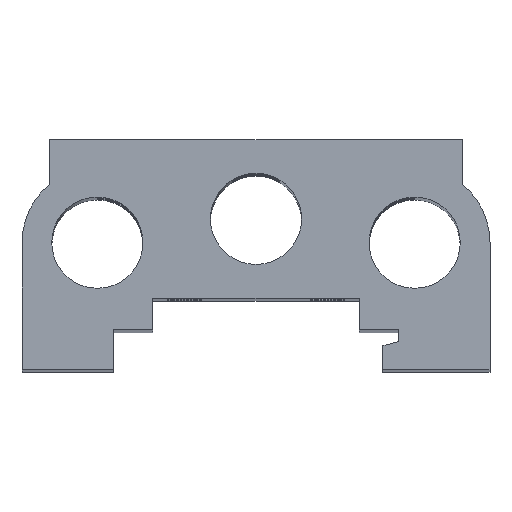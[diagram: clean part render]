
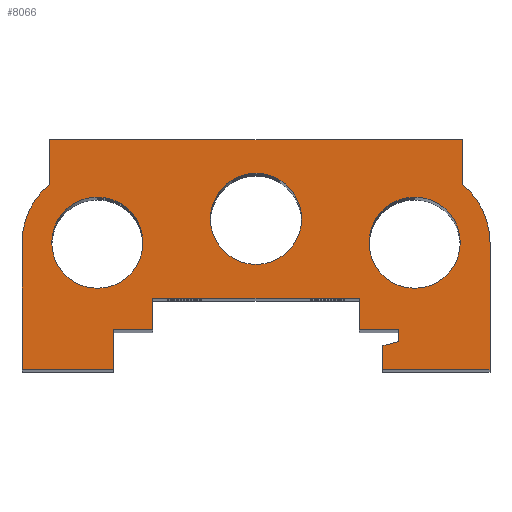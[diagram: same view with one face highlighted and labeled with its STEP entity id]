
A CAD part, top view. The second image highlights one B-rep face of the part: STEP entity #8066.
In plain terms, the highlighted planar face has unit normal (0, 0, 1).
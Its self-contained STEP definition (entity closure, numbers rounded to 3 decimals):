
#7066=CARTESIAN_POINT('',(25.75,16.0,206.0));
#7067=VERTEX_POINT('',#7066);
#7068=CARTESIAN_POINT('',(20.0,16.0,206.0));
#7069=DIRECTION('',(0.0,0.0,-1.0));
#7070=DIRECTION('',(-1.0,0.0,0.0));
#7071=AXIS2_PLACEMENT_3D('',#7068,#7069,#7070);
#7072=CIRCLE('',#7071,5.75);
#7073=EDGE_CURVE('',#7067,#7067,#7072,.T.);
#7122=CARTESIAN_POINT('',(5.75,19.0,206.0));
#7123=VERTEX_POINT('',#7122);
#7124=CARTESIAN_POINT('',(0.0,19.0,206.0));
#7125=DIRECTION('',(0.0,0.0,-1.0));
#7126=DIRECTION('',(-1.0,0.0,0.0));
#7127=AXIS2_PLACEMENT_3D('',#7124,#7125,#7126);
#7128=CIRCLE('',#7127,5.75);
#7129=EDGE_CURVE('',#7123,#7123,#7128,.T.);
#7171=CARTESIAN_POINT('',(-14.25,16.0,206.0));
#7172=VERTEX_POINT('',#7171);
#7173=CARTESIAN_POINT('',(-20.0,16.0,206.0));
#7174=DIRECTION('',(0.0,0.0,-1.0));
#7175=DIRECTION('',(-1.0,0.0,0.0));
#7176=AXIS2_PLACEMENT_3D('',#7173,#7174,#7175);
#7177=CIRCLE('',#7176,5.75);
#7178=EDGE_CURVE('',#7172,#7172,#7177,.T.);
#7227=CARTESIAN_POINT('',(-29.5,16.,206.0));
#7228=VERTEX_POINT('',#7227);
#7229=CARTESIAN_POINT('',(-26.,23.365,206.0));
#7230=VERTEX_POINT('',#7229);
#7231=CARTESIAN_POINT('',(-20.0,16.0,206.0));
#7232=DIRECTION('',(0.0,0.0,-1.0));
#7233=DIRECTION('',(-0.632,0.775,0.0));
#7234=AXIS2_PLACEMENT_3D('',#7231,#7232,#7233);
#7235=CIRCLE('',#7234,9.5);
#7236=EDGE_CURVE('',#7228,#7230,#7235,.T.);
#7269=CARTESIAN_POINT('',(-26.,29.,206.0));
#7270=VERTEX_POINT('',#7269);
#7271=CARTESIAN_POINT('',(-26.,23.365,206.0));
#7272=DIRECTION('',(0.0,1.0,0.0));
#7273=VECTOR('',#7272,5.635);
#7274=LINE('',#7271,#7273);
#7275=EDGE_CURVE('',#7230,#7270,#7274,.T.);
#7300=CARTESIAN_POINT('',(26.,29.,206.0));
#7301=VERTEX_POINT('',#7300);
#7302=CARTESIAN_POINT('',(-26.,29.,206.0));
#7303=DIRECTION('',(1.0,0.0,0.0));
#7304=VECTOR('',#7303,52.);
#7305=LINE('',#7302,#7304);
#7306=EDGE_CURVE('',#7270,#7301,#7305,.T.);
#7490=CARTESIAN_POINT('',(26.0,23.365,206.0));
#7491=VERTEX_POINT('',#7490);
#7492=CARTESIAN_POINT('',(26.,29.,206.0));
#7493=DIRECTION('',(0.0,-1.0,0.0));
#7494=VECTOR('',#7493,5.635);
#7495=LINE('',#7492,#7494);
#7496=EDGE_CURVE('',#7301,#7491,#7495,.T.);
#7521=CARTESIAN_POINT('',(29.5,16.0,206.0));
#7522=VERTEX_POINT('',#7521);
#7523=CARTESIAN_POINT('',(20.0,16.0,206.0));
#7524=DIRECTION('',(0.0,0.0,-1.0));
#7525=DIRECTION('',(1.0,0.0,0.0));
#7526=AXIS2_PLACEMENT_3D('',#7523,#7524,#7525);
#7527=CIRCLE('',#7526,9.5);
#7528=EDGE_CURVE('',#7491,#7522,#7527,.T.);
#7554=CARTESIAN_POINT('',(29.5,0.0,206.0));
#7555=VERTEX_POINT('',#7554);
#7556=CARTESIAN_POINT('',(29.5,16.0,206.0));
#7557=DIRECTION('',(0.0,-1.0,0.0));
#7558=VECTOR('',#7557,16.0);
#7559=LINE('',#7556,#7558);
#7560=EDGE_CURVE('',#7522,#7555,#7559,.T.);
#7585=CARTESIAN_POINT('',(16.,0.0,206.0));
#7586=VERTEX_POINT('',#7585);
#7587=CARTESIAN_POINT('',(29.5,0.0,206.0));
#7588=DIRECTION('',(-1.0,0.0,0.0));
#7589=VECTOR('',#7588,13.5);
#7590=LINE('',#7587,#7589);
#7591=EDGE_CURVE('',#7555,#7586,#7590,.T.);
#7616=CARTESIAN_POINT('',(16.,3.,206.0));
#7617=VERTEX_POINT('',#7616);
#7618=CARTESIAN_POINT('',(16.,0.0,206.0));
#7619=DIRECTION('',(0.0,1.0,0.0));
#7620=VECTOR('',#7619,3.);
#7621=LINE('',#7618,#7620);
#7622=EDGE_CURVE('',#7586,#7617,#7621,.T.);
#7647=CARTESIAN_POINT('',(18.0,3.536,206.0));
#7648=VERTEX_POINT('',#7647);
#7649=CARTESIAN_POINT('',(16.,3.,206.0));
#7650=DIRECTION('',(0.966,0.259,0.0));
#7651=VECTOR('',#7650,2.071);
#7652=LINE('',#7649,#7651);
#7653=EDGE_CURVE('',#7617,#7648,#7652,.T.);
#7678=CARTESIAN_POINT('',(18.,5.0,206.0));
#7679=VERTEX_POINT('',#7678);
#7680=CARTESIAN_POINT('',(18.0,3.536,206.0));
#7681=DIRECTION('',(0.0,1.0,0.0));
#7682=VECTOR('',#7681,1.464);
#7683=LINE('',#7680,#7682);
#7684=EDGE_CURVE('',#7648,#7679,#7683,.T.);
#7709=CARTESIAN_POINT('',(13.0,5.0,206.0));
#7710=VERTEX_POINT('',#7709);
#7711=CARTESIAN_POINT('',(18.,5.0,206.0));
#7712=DIRECTION('',(-1.0,0.0,0.0));
#7713=VECTOR('',#7712,5.);
#7714=LINE('',#7711,#7713);
#7715=EDGE_CURVE('',#7679,#7710,#7714,.T.);
#7740=CARTESIAN_POINT('',(13.0,9.0,206.0));
#7741=VERTEX_POINT('',#7740);
#7742=CARTESIAN_POINT('',(13.0,5.0,206.0));
#7743=DIRECTION('',(0.0,1.0,0.0));
#7744=VECTOR('',#7743,4.0);
#7745=LINE('',#7742,#7744);
#7746=EDGE_CURVE('',#7710,#7741,#7745,.T.);
#7771=CARTESIAN_POINT('',(-13.0,9.0,206.0));
#7772=VERTEX_POINT('',#7771);
#7773=CARTESIAN_POINT('',(13.0,9.0,206.0));
#7774=DIRECTION('',(-1.0,0.0,0.0));
#7775=VECTOR('',#7774,26.0);
#7776=LINE('',#7773,#7775);
#7777=EDGE_CURVE('',#7741,#7772,#7776,.T.);
#7856=CARTESIAN_POINT('',(-13.0,5.0,206.0));
#7857=VERTEX_POINT('',#7856);
#7858=CARTESIAN_POINT('',(-13.0,9.0,206.0));
#7859=DIRECTION('',(0.0,-1.0,0.0));
#7860=VECTOR('',#7859,4.0);
#7861=LINE('',#7858,#7860);
#7862=EDGE_CURVE('',#7772,#7857,#7861,.T.);
#7887=CARTESIAN_POINT('',(-18.0,5.0,206.0));
#7888=VERTEX_POINT('',#7887);
#7889=CARTESIAN_POINT('',(-13.0,5.0,206.0));
#7890=DIRECTION('',(-1.0,0.0,0.0));
#7891=VECTOR('',#7890,5.0);
#7892=LINE('',#7889,#7891);
#7893=EDGE_CURVE('',#7857,#7888,#7892,.T.);
#7918=CARTESIAN_POINT('',(-18.0,0.0,206.0));
#7919=VERTEX_POINT('',#7918);
#7920=CARTESIAN_POINT('',(-18.0,5.0,206.0));
#7921=DIRECTION('',(0.0,-1.0,0.0));
#7922=VECTOR('',#7921,5.0);
#7923=LINE('',#7920,#7922);
#7924=EDGE_CURVE('',#7888,#7919,#7923,.T.);
#7949=CARTESIAN_POINT('',(-29.5,0.0,206.0));
#7950=VERTEX_POINT('',#7949);
#7951=CARTESIAN_POINT('',(-18.0,0.0,206.0));
#7952=DIRECTION('',(-1.0,0.0,0.0));
#7953=VECTOR('',#7952,11.5);
#7954=LINE('',#7951,#7953);
#7955=EDGE_CURVE('',#7919,#7950,#7954,.T.);
#7980=CARTESIAN_POINT('',(-29.5,0.0,206.0));
#7981=DIRECTION('',(0.0,1.0,0.0));
#7982=VECTOR('',#7981,16.);
#7983=LINE('',#7980,#7982);
#7984=EDGE_CURVE('',#7950,#7228,#7983,.T.);
#8032=CARTESIAN_POINT('',(0.278,14.351,206.0));
#8033=DIRECTION('',(0.0,0.0,1.0));
#8034=DIRECTION('',(1.0,0.0,0.0));
#8035=AXIS2_PLACEMENT_3D('',#8032,#8033,#8034);
#8036=PLANE('',#8035);
#8037=ORIENTED_EDGE('',*,*,#7236,.F.);
#8038=ORIENTED_EDGE('',*,*,#7984,.F.);
#8039=ORIENTED_EDGE('',*,*,#7955,.F.);
#8040=ORIENTED_EDGE('',*,*,#7924,.F.);
#8041=ORIENTED_EDGE('',*,*,#7893,.F.);
#8042=ORIENTED_EDGE('',*,*,#7862,.F.);
#8043=ORIENTED_EDGE('',*,*,#7777,.F.);
#8044=ORIENTED_EDGE('',*,*,#7746,.F.);
#8045=ORIENTED_EDGE('',*,*,#7715,.F.);
#8046=ORIENTED_EDGE('',*,*,#7684,.F.);
#8047=ORIENTED_EDGE('',*,*,#7653,.F.);
#8048=ORIENTED_EDGE('',*,*,#7622,.F.);
#8049=ORIENTED_EDGE('',*,*,#7591,.F.);
#8050=ORIENTED_EDGE('',*,*,#7560,.F.);
#8051=ORIENTED_EDGE('',*,*,#7528,.F.);
#8052=ORIENTED_EDGE('',*,*,#7496,.F.);
#8053=ORIENTED_EDGE('',*,*,#7306,.F.);
#8054=ORIENTED_EDGE('',*,*,#7275,.F.);
#8055=EDGE_LOOP('',(#8037,#8038,#8039,#8040,#8041,#8042,#8043,#8044,#8045,#8046,#8047,#8048,#8049,#8050,#8051,#8052,#8053,#8054));
#8056=FACE_OUTER_BOUND('',#8055,.T.);
#8057=ORIENTED_EDGE('',*,*,#7073,.T.);
#8058=EDGE_LOOP('',(#8057));
#8059=FACE_BOUND('',#8058,.T.);
#8060=ORIENTED_EDGE('',*,*,#7129,.T.);
#8061=EDGE_LOOP('',(#8060));
#8062=FACE_BOUND('',#8061,.T.);
#8063=ORIENTED_EDGE('',*,*,#7178,.T.);
#8064=EDGE_LOOP('',(#8063));
#8065=FACE_BOUND('',#8064,.T.);
#8066=ADVANCED_FACE('',(#8056,#8059,#8062,#8065),#8036,.T.);
